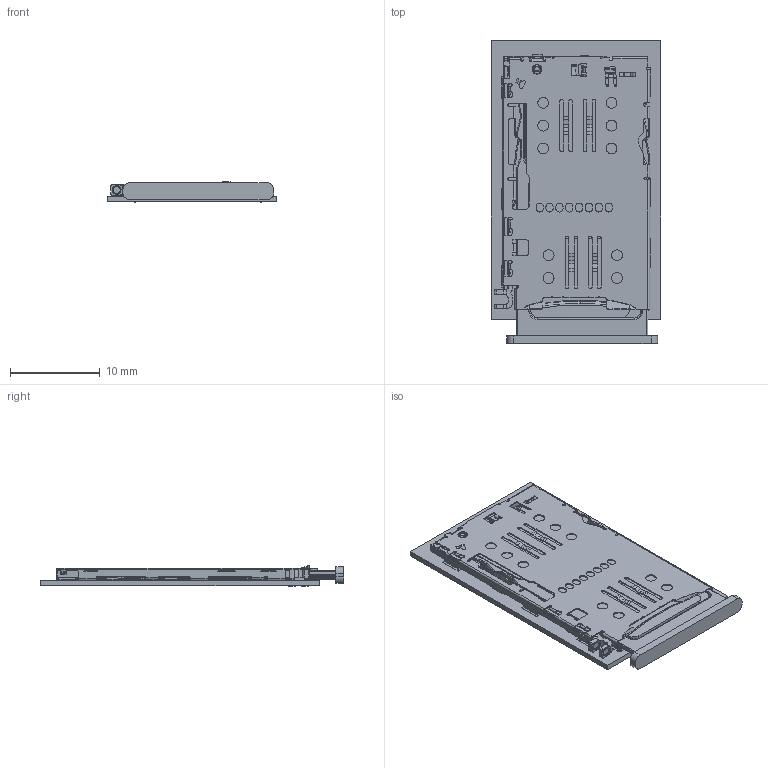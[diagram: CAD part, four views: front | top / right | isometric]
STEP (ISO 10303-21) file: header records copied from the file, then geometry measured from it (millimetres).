
FILE_DESCRIPTION(('CoCreate Modeling STEP Export'),'2;1');
FILE_NAME('3.2.16.0229-3.2.03.0287-3.2.04.0215-210430.stp','2021-04-30T13:48:32',(''),(''),'CoCreate Modeling STEP processor for AP214 (Solid Model)','CoCreate Modeling 16.00 13-May-2008 (C) Parametric Technology GmbH','');
FILE_SCHEMA(('AUTOMOTIVE_DESIGN { 1 0 10303 214 1 1 1 1 }'));
Length unit declared in the file: millimetre
Products named in the file (290): 3.2.03.0287-02; 3.2.03.0287-01; pcb.1.1; 3.2.16.0229; 3.2.04.0215; Group31560; Group31563; Group31566; Group31569; Group31572; Group31575; Group31578; Group31581; Group31584; Group31587; Group31590; Group31593; Group31596; Group31599; Group31602; Group31605; Group31608; Group31611; Group31614; Group31617; Group31620; Group31623; Group31626; Group31629; Group31632; Group31635; Group31638; Group31641; Group31644; Group31647; Group31650; Group31653; Group31656; Group31659; Group31662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
Assembly tree (290 placements, depth 5):
  customer-model-0287
    tray_card_assy.2
      card-assy
        NANO_SIM_CARD_1.1  x2
          p1
        MICRO_SD_CARD
      tray-assy
        tray
    layout
      Group32385
      Group32382
      Group32379
      Group32376
      Group32373
      Group32370
      Group32367
      Group32364
      Group32361
      Group32358
      Group32355
      Group32352
      Group32349
      Group32346
      Group32343
      Group32340
      Group32337
      Group32334
      Group32331
      Group32328
      Group32325
      Group32322
      Group32319
      Group32316
      Group32313
      Group32310
      Group32307
      Group32304
      Group32301
      Group32298
      Group32295
      Group32292
      Group32289
      Group32286
      Group32283
      Group32280
      Group32277
      Group32274
      Group32271
      Group32268
      Group32265
      Group32262
      Group32259
      Group32256
      Group32253
      Group32250
      Group32247
      Group32244
      Group32241
      Group32238
      Group32235
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Bounding box: 18.95 x 33.8 x 2.31 mm (x, y, z)
Volume: 867.2 mm3; surface area: 4088.2 mm2
Topology: 9 solids, 10 shells, 5461 faces, 15481 edges, 10244 vertices
Faces by surface type: plane 3008, cylinder 1462, bspline 763, torus 71, sphere 71, cone 66, extrusion 20
Entity records: 257560 total; most frequent: CARTESIAN_POINT 59707, ORIENTED_EDGE 30174, DIRECTION 25894, EDGE_CURVE 15084, VECTOR 10990, LINE 10970, VERTEX_POINT 9668, AXIS2_PLACEMENT_3D 7452
